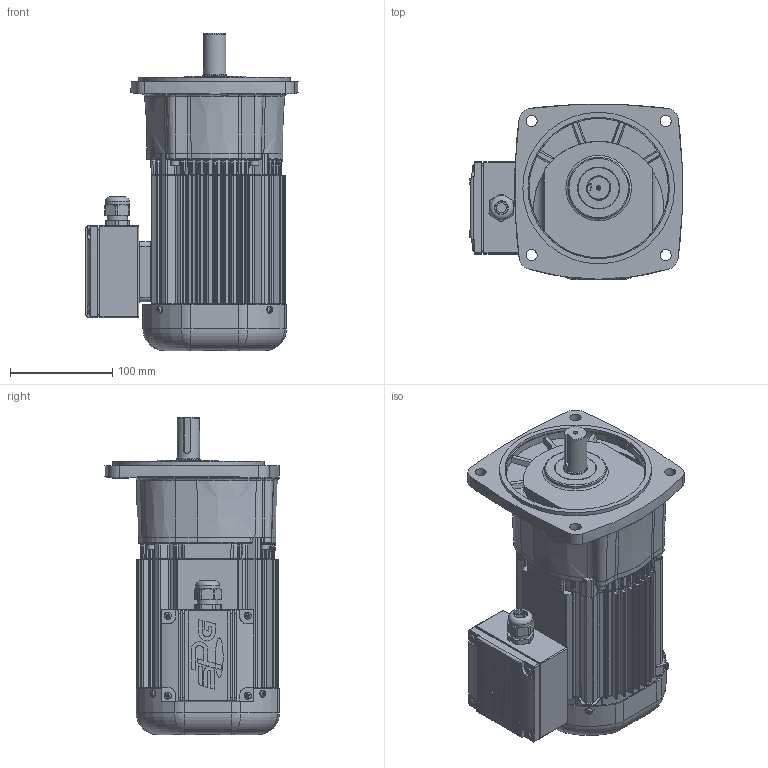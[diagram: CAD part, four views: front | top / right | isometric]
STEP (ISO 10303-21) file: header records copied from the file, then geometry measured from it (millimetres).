
FILE_DESCRIPTION(/* description */ (''),/* implementation_level */ '2;1');
FILE_NAME(/* name */ 'Z:\동력 3D 파일\PAF22_0.4kW_3D.stp',/* time_stamp */ '2021-11-08T15:13:24+09:00',/* author */ ('jaebok'),/* organization */ (''),/* preprocessor_version */ 'ST-DEVELOPER v18.1',/* originating_system */ 'Autodesk Inventor 2022',/* authorisation */ '');
FILE_SCHEMA (('AUTOMOTIVE_DESIGN { 1 0 10303 214 3 1 1 }'));
Products named in the file (1): 부품7
Bounding box: 207.74 x 170.74 x 309.5 mm (x, y, z)
Volume: 1477112.5 mm3; surface area: 529653.3 mm2
Topology: 2 solids, 34 shells, 3042 faces, 7776 edges, 4728 vertices
Faces by surface type: plane 986, cylinder 869, bspline 656, torus 297, cone 158, sphere 76
Full cylindrical faces by diameter (mm): 2 x1, 3.242 x5, 3.25 x1, 3.5 x4, 3.6 x4, 4 x21, 4.2 x4, 4.917 x4, 5 x19, 5.386 x4, 5.5 x4, 6 x9, 7 x12, 8 x5, 8.5 x4, 10 x1, 11 x4, 12.5 x1, 14 x1, 15 x1, 15.5 x1, 18 x1, 20 x2, 21 x1, 22 x2, 23 x1, 23.6 x2, 24 x1, 25 x2, 30 x3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
Entity records: 118084 total; most frequent: CARTESIAN_POINT 45111, ORIENTED_EDGE 15230, DIRECTION 13869, EDGE_CURVE 7615, AXIS2_PLACEMENT_3D 5612, VERTEX_POINT 4728, EDGE_LOOP 3226, CIRCLE 3118
